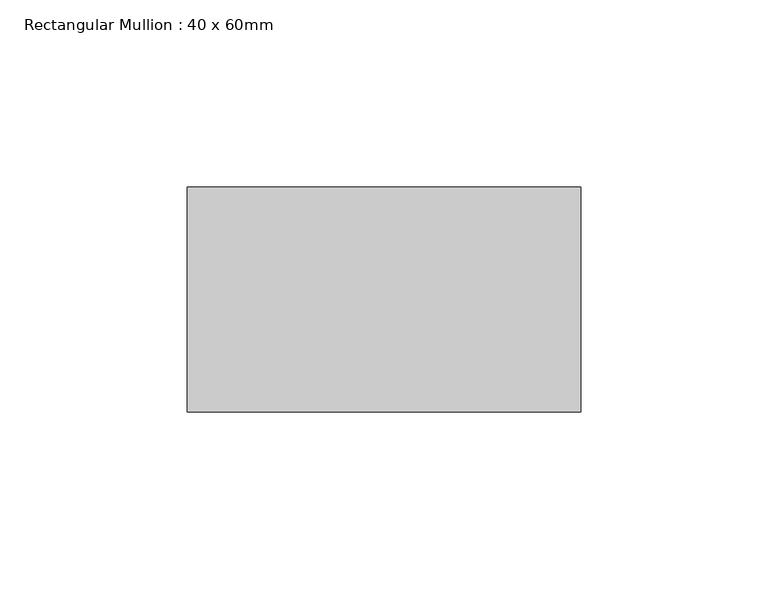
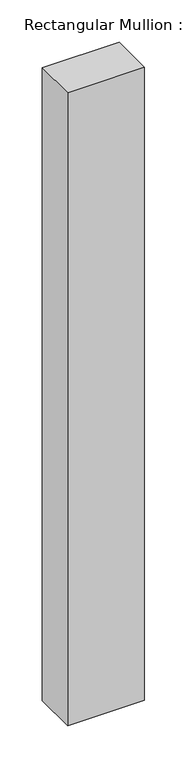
"""IFC4 building model written with IfcOpenShell, lengths in millimetres: member geometry, Rectangular Mullion : 40 x 60mm."""

from ifc_helpers import new_model, si_unit, frame, origin, place, context, project, spatial, polyline, outline, extrude, source, transform, mapped, element, save


def rectangular_mullion_40_x_60mm_95adaa67(model_context):
    return source(origin(), model_context, "Body", "SweptSolid", [
        extrude(outline(polyline([(80.0, -10.0), (80.0, -70.0), (-25.0, -70.0), (-25.0, -10.0), (80.0, -10.0)])), frame((0.0, 0.0, -914.1631433), z_axis=(0.0, 0.0, 1.0), x_axis=(1.0, 0.0, 0.0)), (0.0, 0.0, 1.0), 914.1631433),
    ])


if __name__ == "__main__":
    model = new_model("IFC4")
    model_context = context("Model", 3, world=origin())
    ifc_project = project(units=[si_unit("LENGTHUNIT", "METRE", prefix="MILLI")], contexts=[model_context])
    site = spatial("IfcSite", under=ifc_project)
    building = spatial("IfcBuilding", under=site)
    placement = place(None, origin())
    rectangular_mullion_40_x_60mm_shape = rectangular_mullion_40_x_60mm_95adaa67(model_context)
    element("IfcMember", 1, ObjectType="Rectangular Mullion : 40 x 60mm", at=placement, inside=building, context=model_context, shape_type="MappedRepresentation", body=[
        mapped(rectangular_mullion_40_x_60mm_shape, transform((0.0, 0.0, 0.0), x_axis=(1.0, 0.0, 0.0), y_axis=(0.0, 1.0, 0.0), z_axis=(0.0, 0.0, 1.0))),
    ])
    save(model, "model.ifc")
